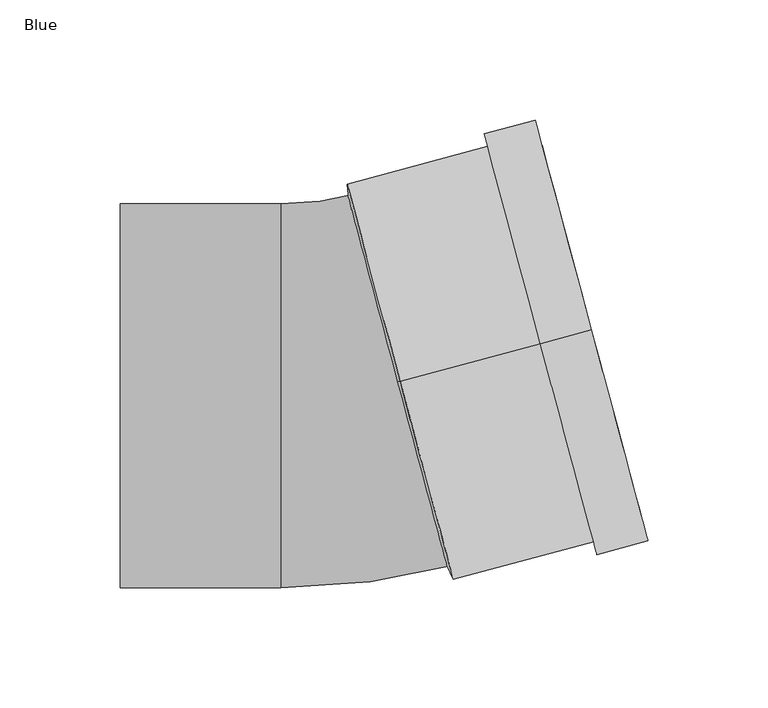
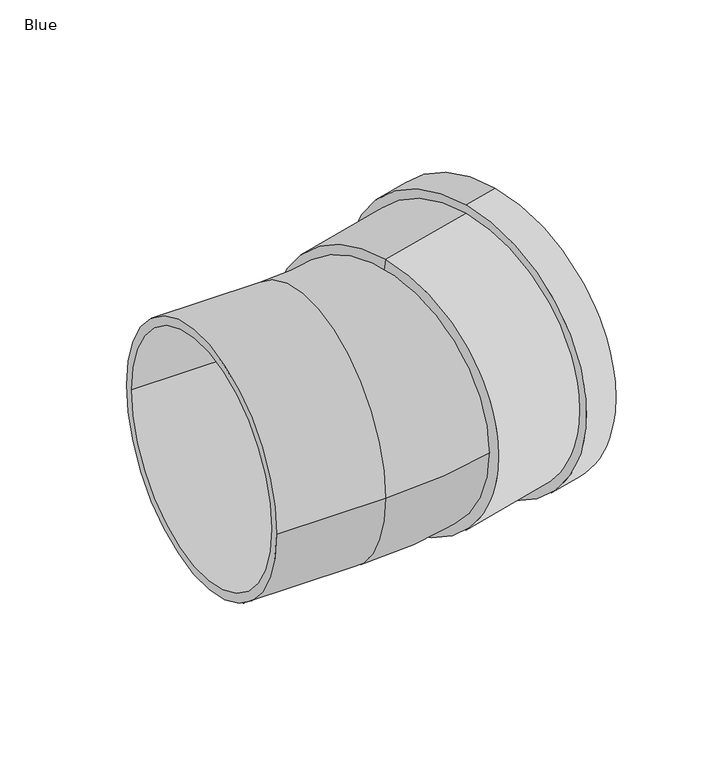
"""IFC4 building model written with IfcOpenShell, lengths in millimetres: pipe fitting geometry, AWADUKT PP SN10 Bend : Blue."""

import ifcopenshell
import ifcopenshell.guid

model = None  # the IFC model being written
_history = None  # IfcOwnerHistory: only IFC2X3 demands one
_inside = {}  # id of a spatial element -> (the spatial element, [elements in it])
_under = {}  # id of a project, library or spatial element -> (it, [spatial elements below it])
_declared = {}  # id of a project -> (the project, [libraries it declares])
_typed = {}  # id of a type object -> (the type object, [elements of that type])
_made_of = {}  # id of a material, layer set ... -> (it, [elements and type objects made of it])


def new_model(schema):
    """Start an empty IFC model of exactly this schema.

    Asked for "IFC4X3", IfcOpenShell would pick the latest addendum, in which some entities
    have other attributes; the version numbers below select the first issue.
    IFC2X3 requires an IfcOwnerHistory on every rooted entity: one is made here for all.
    """
    global model, _history
    if schema == "IFC4X3":
        model = ifcopenshell.file(schema_version=(4, 3, 0, 0))
    else:
        model = ifcopenshell.file(schema=schema)
    _inside.clear()
    _under.clear()
    _declared.clear()
    _typed.clear()
    _made_of.clear()
    _history = None
    if model.schema == "IFC2X3":
        org = make("IfcOrganization", Name="unknown")
        user = make(
            "IfcPersonAndOrganization",
            ThePerson=make("IfcPerson", FamilyName="unknown"),
            TheOrganization=org,
        )
        app = make(
            "IfcApplication",
            ApplicationDeveloper=org,
            Version="unknown",
            ApplicationFullName="unknown",
            ApplicationIdentifier="unknown",
        )
        _history = make(
            "IfcOwnerHistory",
            OwningUser=user,
            OwningApplication=app,
            ChangeAction="ADDED",
            CreationDate=0,
        )
    return model


def make(cls, **values):
    """One entity of the class cls with the attributes given. An attribute that is None is left unset."""
    return model.create_entity(
        cls, **{name: value for name, value in values.items() if value is not None}
    )


def rooted(cls, **values):
    """An entity with a GlobalId (a new one), such as an element, a storey or a relation."""
    return make(cls, GlobalId=ifcopenshell.guid.new(), OwnerHistory=_history, **values)


def si_unit(unit_type, name, prefix=None):
    """IfcSIUnit, for example si_unit("LENGTHUNIT", "METRE", prefix="MILLI")."""
    return make("IfcSIUnit", UnitType=unit_type, Prefix=prefix, Name=name)


def assignment(units):
    """IfcUnitAssignment: the units of a project."""
    return None if units is None else make("IfcUnitAssignment", Units=units)


def point(xyz):
    """IfcCartesianPoint."""
    return None if xyz is None else make("IfcCartesianPoint", Coordinates=xyz)


def direction(xyz):
    """IfcDirection."""
    return None if xyz is None else make("IfcDirection", DirectionRatios=xyz)


def frame(location, z_axis=None, x_axis=None):
    """IfcAxis2Placement3D, a coordinate frame: its origin and axes. An axis left out is left unset."""
    return make(
        "IfcAxis2Placement3D",
        Location=point(location),
        Axis=direction(z_axis),
        RefDirection=direction(x_axis),
    )


def origin():
    """The frame at (0, 0, 0) with its axes left unset."""
    return frame((0.0, 0.0, 0.0))


def place(relative_to, where):
    """IfcLocalPlacement: puts the frame where relative to a parent placement (None: the world)."""
    return make(
        "IfcLocalPlacement", PlacementRelTo=relative_to, RelativePlacement=where
    )


def context(
    kind, dimensions, precision=None, world=None, true_north=None, identifier=None
):
    """IfcGeometricRepresentationContext, for example the 3D "Model" context."""
    return make(
        "IfcGeometricRepresentationContext",
        ContextIdentifier=identifier,
        ContextType=kind,
        CoordinateSpaceDimension=dimensions,
        Precision=precision,
        WorldCoordinateSystem=world,
        TrueNorth=true_north,
    )


def project(units=None, contexts=None):
    """IfcProject with its units and contexts."""
    return rooted(
        "IfcProject",
        Name="project",
        RepresentationContexts=contexts,
        UnitsInContext=assignment(units),
    )


def spatial(cls, under=None, at=None, **own):
    """A site, building, storey or space (cls), placed at a placement, below another one or the project."""
    s = rooted(cls, ObjectPlacement=at, **own)
    if under is not None:
        _under.setdefault(under.id(), (under, []))[1].append(s)
    return s


def polyline(points):
    """IfcPolyline through the points."""
    return make("IfcPolyline", Points=[point(p) for p in points])


def circle_curve(where, radius):
    """IfcCircle in the frame where."""
    return make("IfcCircle", Position=where, Radius=radius)


def ellipse_curve(where, semi_axis1, semi_axis2):
    """IfcEllipse in the frame where."""
    return make(
        "IfcEllipse", Position=where, SemiAxis1=semi_axis1, SemiAxis2=semi_axis2
    )


def trimmed(basis, trim1, trim2, sense, master):
    """IfcTrimmedCurve: the piece of a basis curve between two trims."""
    return make(
        "IfcTrimmedCurve",
        BasisCurve=basis,
        Trim1=trim1,
        Trim2=trim2,
        SenseAgreement=sense,
        MasterRepresentation=master,
    )


def shape(context_of_items, identifier, shape_type, items):
    """IfcShapeRepresentation: the items that make up one representation, for example the "Body"."""
    return make(
        "IfcShapeRepresentation",
        ContextOfItems=context_of_items,
        RepresentationIdentifier=identifier,
        RepresentationType=shape_type,
        Items=items,
    )


def source(mapping_origin, context_of_items, identifier, shape_type, items):
    """IfcRepresentationMap: a shape defined once, which mapped items show again and again."""
    return make(
        "IfcRepresentationMap",
        MappingOrigin=mapping_origin,
        MappedRepresentation=shape(context_of_items, identifier, shape_type, items),
    )


def transform(
    local_origin,
    x_axis=None,
    y_axis=None,
    z_axis=None,
    scale=None,
    scale2=None,
    scale3=None,
    uniform=True,
):
    """IfcCartesianTransformationOperator3D, or its non-uniform kind. x_axis, y_axis, z_axis: its Axis1, 2, 3."""
    if uniform:
        return make(
            "IfcCartesianTransformationOperator3D",
            Axis1=direction(x_axis),
            Axis2=direction(y_axis),
            LocalOrigin=point(local_origin),
            Scale=scale,
            Axis3=direction(z_axis),
        )
    return make(
        "IfcCartesianTransformationOperator3DnonUniform",
        Axis1=direction(x_axis),
        Axis2=direction(y_axis),
        LocalOrigin=point(local_origin),
        Scale=scale,
        Axis3=direction(z_axis),
        Scale2=scale2,
        Scale3=scale3,
    )


def mapped(mapping_source, mapping_target):
    """IfcMappedItem: shows the shape of a source again, moved by a transform."""
    return make(
        "IfcMappedItem", MappingSource=mapping_source, MappingTarget=mapping_target
    )


def made_of(thing, what):
    """Note that an element or type object is made of a material, layer set ...; save() writes the relation."""
    if what is not None:
        _made_of.setdefault(what.id(), (what, []))[1].append(thing)
    return thing


def element(
    cls,
    number,
    at=None,
    inside=None,
    cuts=None,
    type_object=None,
    material=None,
    context=None,
    identifier="Body",
    shape_type=None,
    held_by="IfcProductDefinitionShape",
    body=None,
    shapes=None,
    **own,
):
    """One element of the class cls, such as IfcWall. Its Tag is "e" and its number.

    at: its placement. inside: the storey or other place that contains it. cuts: it is an
    opening in that element (IfcRelVoidsElement). A single representation is given by context,
    identifier, shape_type and body (its items); several are given by shapes. held_by: the class
    of the entity that holds the representations. save() writes the other relations.
    """
    e = rooted(cls, Tag="e%d" % number, ObjectPlacement=at, **own)
    if body is not None:
        shapes = [shape(context, identifier, shape_type, body)]
    if shapes is not None:
        e.Representation = make(held_by, Representations=shapes)
    if inside is not None:
        _inside.setdefault(inside.id(), (inside, []))[1].append(e)
    if cuts is not None:
        rooted(
            "IfcRelVoidsElement", RelatingBuildingElement=cuts, RelatedOpeningElement=e
        )
    if type_object is not None:
        _typed.setdefault(type_object.id(), (type_object, []))[1].append(e)
    return made_of(e, material)


def aggregate(whole, parts):
    """IfcRelAggregates: a whole, such as a stair, and the parts it consists of."""
    return rooted("IfcRelAggregates", RelatingObject=whole, RelatedObjects=parts)


def save(model, path):
    """Write the relations noted so far, then the file.

    IfcRelAggregates (storeys below a building ...), IfcRelContainedInSpatialStructure (elements
    in a storey), IfcRelDefinesByType, IfcRelAssociatesMaterial and IfcRelDeclares: one each for
    every whole, place, type object, material and project.
    """
    for whole, parts in _under.values():
        aggregate(whole, parts)
    for where, things in _inside.values():
        rooted(
            "IfcRelContainedInSpatialStructure",
            RelatedElements=things,
            RelatingStructure=where,
        )
    for kind, things in _typed.values():
        rooted("IfcRelDefinesByType", RelatedObjects=things, RelatingType=kind)
    for what, things in _made_of.values():
        rooted("IfcRelAssociatesMaterial", RelatedObjects=things, RelatingMaterial=what)
    for by, libraries in _declared.values():
        rooted("IfcRelDeclares", RelatingContext=by, RelatedDefinitions=libraries)
    model.write(path)


def plane_surface(at):
    """IfcPlane: the flat surface through the origin of the frame at, square to its z axis."""
    return make("IfcPlane", Position=at)


def cylinder_surface(at, radius):
    """IfcCylindricalSurface: all points at the distance radius from the z axis of the frame at."""
    return make("IfcCylindricalSurface", Position=at, Radius=radius)


def revolved_surface(curve, axis_point, axis_direction):
    """IfcSurfaceOfRevolution: the curve turned about the line through axis_point along axis_direction."""
    return make(
        "IfcSurfaceOfRevolution",
        SweptCurve=make("IfcArbitraryOpenProfileDef", ProfileType="CURVE", Curve=curve),
        AxisPosition=make("IfcAxis1Placement", Location=point(axis_point), Axis=direction(axis_direction)),
    )


def advanced_brep(points, edges, surfaces, faces):
    """IfcAdvancedBrep: a solid bounded by faces that lie on surfaces and meet in shared edges.

    An edge is (start, end): straight between two places in points (the first is 0);
    or (start, end, curve); or (start, end, curve, False) where it runs against its curve.
    A face is (place in surfaces, loops), or (place, loops, False) where it looks against
    its surface's normal. A loop lists edges by number (the first is 1), with a minus sign
    where the edge is run from its end to its start. The first loop is the outer one.
    """
    corners = [point(p) for p in points]
    vertices = [make("IfcVertexPoint", VertexGeometry=c) for c in corners]
    made = []
    for start, end, *more in edges:
        made.append(
            make(
                "IfcEdgeCurve",
                EdgeStart=vertices[start],
                EdgeEnd=vertices[end],
                EdgeGeometry=more[0] if more else make("IfcPolyline", Points=[corners[start], corners[end]]),
                SameSense=more[1] if len(more) > 1 else True,
            )
        )
    hull = []
    for where, loops, *sense in faces:
        bounds = []
        for j, loop in enumerate(loops):
            ring = [make("IfcOrientedEdge", EdgeElement=made[abs(k) - 1], Orientation=k > 0) for k in loop]
            bounds.append(
                make(
                    "IfcFaceOuterBound" if j == 0 else "IfcFaceBound",
                    Bound=make("IfcEdgeLoop", EdgeList=ring),
                    Orientation=True,
                )
            )
        hull.append(make("IfcAdvancedFace", Bounds=bounds, FaceSurface=surfaces[where], SameSense=sense[0] if sense else True))
    return make("IfcAdvancedBrep", Outer=make("IfcClosedShell", CfsFaces=hull))


def blue_49925300(model_context):
    return source(origin(), model_context, "Body", "AdvancedBrep", [
        advanced_brep(
        [(81.1377694, 21.7407998, 85.5), (81.1377694, 21.7407998, -85.5), (22.6555492, 6.0705361, -85.5), (22.6555492, 6.0705361, 85.5), (102.3881376, 27.4348188, 91.0), (102.3881376, 27.4348188, -91.0), (81.1377694, 21.7407998, -91.0), (81.1377694, 21.7407998, 91.0), (97.0755455, 26.011314, 80.0), (97.0755455, 26.011314, -80.0), (102.3881376, 27.4348188, -80.0), (102.3881376, 27.4348188, 80.0), (86.4503615, 23.1643045, 85.5), (86.4503615, 23.1643045, -85.5), (97.0755455, 26.011314, -85.5), (97.0755455, 26.011314, 85.5), (27.1133432, 7.2649984, 80.0), (27.1133432, 7.2649984, -80.0), (86.4503615, 23.1643045, -80.0), (86.4503615, 23.1643045, 80.0), (26.1765899, 7.0139961, 74.5), (26.1765899, 7.0139961, -74.5), (20.7820426, 5.5685315, 74.5), (20.7820426, 5.5685315, -74.5)],
        [
            (0, 1, circle_curve(frame((81.1377694, 21.7407998, 0.0), z_axis=(-0.9659258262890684, -0.25881904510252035, 0.0), x_axis=(0.0, 0.0, -1.0)), 85.5)),
            (1, 2),
            (2, 3, circle_curve(frame((22.6555492, 6.0705361, 0.0), z_axis=(0.9659258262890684, 0.25881904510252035, 0.0), x_axis=(0.0, 0.0, -1.0)), 85.5)),
            (3, 0),
            (4, 5, circle_curve(frame((102.3881376, 27.4348188, 0.0), z_axis=(-0.9659258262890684, -0.25881904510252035, 0.0), x_axis=(0.0, 0.0, -1.0)), 91.0)),
            (5, 6),
            (6, 7, circle_curve(frame((81.1377694, 21.7407998, 0.0), z_axis=(0.9659258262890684, 0.25881904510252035, 0.0), x_axis=(0.0, 0.0, -1.0)), 91.0)),
            (7, 4),
            (8, 9, circle_curve(frame((97.0755455, 26.011314, 0.0), z_axis=(-0.9659258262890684, -0.25881904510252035, 0.0), x_axis=(0.0, 0.0, -1.0)), 80.0)),
            (9, 10),
            (10, 11, circle_curve(frame((102.3881376, 27.4348188, 0.0), z_axis=(0.9659258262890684, 0.25881904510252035, 0.0), x_axis=(0.0, 0.0, -1.0)), 80.0)),
            (11, 8),
            (12, 13, circle_curve(frame((86.4503615, 23.1643045, 0.0), z_axis=(-0.9659258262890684, -0.25881904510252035, 0.0), x_axis=(0.0, 0.0, -1.0)), 85.5)),
            (13, 14),
            (14, 15, circle_curve(frame((97.0755455, 26.011314, 0.0), z_axis=(0.9659258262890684, 0.25881904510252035, 0.0), x_axis=(0.0, 0.0, -1.0)), 85.5)),
            (15, 12),
            (16, 17, circle_curve(frame((27.1133432, 7.2649984, 0.0), z_axis=(-0.9659258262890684, -0.25881904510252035, 0.0), x_axis=(0.0, 0.0, -1.0)), 80.0)),
            (17, 18),
            (18, 19, circle_curve(frame((86.4503615, 23.1643045, 0.0), z_axis=(0.9659258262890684, 0.25881904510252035, 0.0), x_axis=(0.0, 0.0, -1.0)), 80.0)),
            (19, 16),
            (20, 21, circle_curve(frame((26.1765899, 7.0139961, 0.0), z_axis=(-0.9659258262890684, -0.25881904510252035, 0.0), x_axis=(0.0, 0.0, -1.0)), 74.5)),
            (21, 17),
            (16, 20),
            (22, 23, circle_curve(frame((20.7820426, 5.5685315, 0.0), z_axis=(-0.9659258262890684, -0.25881904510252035, 0.0), x_axis=(0.0, 0.0, -1.0)), 74.5)),
            (23, 21),
            (20, 22),
            (2, 23),
            (22, 3),
            (1, 0, circle_curve(frame((81.1377694, 21.7407998, 0.0), z_axis=(-0.9659258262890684, -0.25881904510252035, 0.0), x_axis=(0.0, 0.0, 1.0)), 85.5)),
            (3, 2, circle_curve(frame((22.6555492, 6.0705361, 0.0), z_axis=(0.9659258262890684, 0.25881904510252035, 0.0), x_axis=(0.0, 0.0, 1.0)), 85.5)),
            (6, 7, circle_curve(frame((81.1377694, 21.7407998, 0.0), z_axis=(-0.9659258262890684, -0.25881904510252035, 0.0), x_axis=(0.0, 0.0, 1.0)), 91.0)),
            (5, 4, circle_curve(frame((102.3881376, 27.4348188, 0.0), z_axis=(-0.9659258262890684, -0.25881904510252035, 0.0), x_axis=(0.0, 0.0, 1.0)), 91.0)),
            (10, 11, circle_curve(frame((102.3881376, 27.4348188, 0.0), z_axis=(-0.9659258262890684, -0.25881904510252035, 0.0), x_axis=(0.0, 0.0, 1.0)), 80.0)),
            (9, 8, circle_curve(frame((97.0755455, 26.011314, 0.0), z_axis=(-0.9659258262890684, -0.25881904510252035, 0.0), x_axis=(0.0, 0.0, 1.0)), 80.0)),
            (14, 15, circle_curve(frame((97.0755455, 26.011314, 0.0), z_axis=(-0.9659258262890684, -0.25881904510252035, 0.0), x_axis=(0.0, 0.0, 1.0)), 85.5)),
            (13, 12, circle_curve(frame((86.4503615, 23.1643045, 0.0), z_axis=(-0.9659258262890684, -0.25881904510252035, 0.0), x_axis=(0.0, 0.0, 1.0)), 85.5)),
            (18, 19, circle_curve(frame((86.4503615, 23.1643045, 0.0), z_axis=(-0.9659258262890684, -0.25881904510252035, 0.0), x_axis=(0.0, 0.0, 1.0)), 80.0)),
            (17, 16, circle_curve(frame((27.1133432, 7.2649984, 0.0), z_axis=(-0.9659258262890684, -0.25881904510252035, 0.0), x_axis=(0.0, 0.0, 1.0)), 80.0)),
            (21, 20, circle_curve(frame((26.1765899, 7.0139961, 0.0), z_axis=(-0.9659258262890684, -0.25881904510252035, 0.0), x_axis=(0.0, 0.0, 1.0)), 74.5)),
            (23, 22, circle_curve(frame((20.7820426, 5.5685315, 0.0), z_axis=(-0.9659258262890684, -0.25881904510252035, 0.0), x_axis=(0.0, 0.0, 1.0)), 74.5)),
        ],
        [
            cylinder_surface(frame((26.1765899, 7.0139961, 0.0), z_axis=(0.9659258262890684, 0.25881904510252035, 0.0), x_axis=(0.0, 0.0, -1.0)), 85.5),
            cylinder_surface(frame((26.1765899, 7.0139961, 0.0), z_axis=(0.9659258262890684, 0.25881904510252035, 0.0), x_axis=(0.0, 0.0, -1.0)), 91.0),
            revolved_surface(polyline([(102.38813760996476, 27.434818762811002, -80.0), (97.07554550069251, 26.011313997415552, -80.0)]), (26.1765899, 7.0139961, 0.0), (0.9659258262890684, 0.25881904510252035, 0.0)),
            revolved_surface(polyline([(97.07554550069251, 26.011313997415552, -85.5), (86.45036149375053, 23.16430452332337, -85.5)]), (26.1765899, 7.0139961, 0.0), (0.9659258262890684, 0.25881904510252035, 0.0)),
            revolved_surface(polyline([(86.45036149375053, 23.16430452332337, -80.0), (27.113343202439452, 7.264998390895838, -80.0)]), (26.1765899, 7.0139961, 0.0), (0.9659258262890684, 0.25881904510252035, 0.0)),
            revolved_surface(polyline([(27.1133432, 7.2649984, -80.0), (26.1765899, 7.0139961, -74.5)]), (26.1765899, 7.0139961, 0.0), (0.9659258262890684, 0.25881904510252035, 0.0)),
            revolved_surface(polyline([(26.1765899, 7.0139961, -74.5), (20.782042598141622, 5.5685315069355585, -74.5)]), (26.1765899, 7.0139961, 0.0), (0.9659258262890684, 0.25881904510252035, 0.0)),
            revolved_surface(polyline([(20.7820426, 5.5685315, -74.5), (22.6555492, 6.0705361, -85.5)]), (26.1765899, 7.0139961, 0.0), (0.9659258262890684, 0.25881904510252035, 0.0)),
            cylinder_surface(frame((26.1765899, 7.0139961, 0.0), z_axis=(0.9659258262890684, 0.25881904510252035, 0.0), x_axis=(0.0, 0.0, 1.0)), 85.5),
            plane_surface(frame((81.1377694, 21.7407998, 0.0), z_axis=(-0.9659258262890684, -0.25881904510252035, 0.0), x_axis=(0.0, 0.0, 1.0))),
            cylinder_surface(frame((26.1765899, 7.0139961, 0.0), z_axis=(0.9659258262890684, 0.25881904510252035, 0.0), x_axis=(0.0, 0.0, 1.0)), 91.0),
            plane_surface(frame((102.3881376, 27.4348188, 0.0), z_axis=(0.9659258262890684, 0.25881904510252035, 0.0), x_axis=(0.0, 0.0, 1.0))),
            revolved_surface(polyline([(102.38813760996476, 27.434818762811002, 80.0), (97.07554550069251, 26.011313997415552, 80.0)]), (26.1765899, 7.0139961, 0.0), (0.9659258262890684, 0.25881904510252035, 0.0)),
            plane_surface(frame((97.0755455, 26.011314, 0.0), z_axis=(-0.9659258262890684, -0.25881904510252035, 0.0), x_axis=(0.0, 0.0, 1.0))),
            revolved_surface(polyline([(97.07554550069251, 26.011313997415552, 85.5), (86.45036149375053, 23.16430452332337, 85.5)]), (26.1765899, 7.0139961, 0.0), (0.9659258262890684, 0.25881904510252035, 0.0)),
            plane_surface(frame((86.4503615, 23.1643045, 0.0), z_axis=(0.9659258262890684, 0.25881904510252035, 0.0), x_axis=(0.0, 0.0, 1.0))),
            revolved_surface(polyline([(86.45036149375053, 23.16430452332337, 80.0), (27.113343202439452, 7.264998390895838, 80.0)]), (26.1765899, 7.0139961, 0.0), (0.9659258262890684, 0.25881904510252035, 0.0)),
            revolved_surface(polyline([(27.1133432, 7.2649984, 80.0), (26.1765899, 7.0139961, 74.5)]), (26.1765899, 7.0139961, 0.0), (0.9659258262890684, 0.25881904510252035, 0.0)),
            revolved_surface(polyline([(26.1765899, 7.0139961, 74.5), (20.782042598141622, 5.5685315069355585, 74.5)]), (26.1765899, 7.0139961, 0.0), (0.9659258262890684, 0.25881904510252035, 0.0)),
            revolved_surface(polyline([(20.7820426, 5.5685315, 74.5), (22.6555492, 6.0705361, 85.5)]), (26.1765899, 7.0139961, 0.0), (0.9659258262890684, 0.25881904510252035, 0.0)),
        ],
        [
            (0, [[1, 2, 3, 4]]),
            (1, [[5, 6, 7, 8]]),
            (2, [[9, 10, 11, 12]]),
            (3, [[13, 14, 15, 16]]),
            (4, [[17, 18, 19, 20]]),
            (5, [[21, 22, -17, 23]]),
            (6, [[24, 25, -21, 26]]),
            (7, [[-3, 27, -24, 28]]),
            (8, [[29, -4, 30, -2]]),
            (9, [[31, -7], [-29, -1]]),
            (10, [[32, -8, -31, -6]]),
            (11, [[-32, -5], [33, -11]]),
            (12, [[34, -12, -33, -10]]),
            (13, [[35, -15], [-34, -9]]),
            (14, [[36, -16, -35, -14]]),
            (15, [[-36, -13], [37, -19]]),
            (16, [[38, -20, -37, -18]]),
            (17, [[39, -23, -38, -22]]),
            (18, [[40, -26, -39, -25]]),
            (19, [[-30, -28, -40, -27]]),
        ],
    ),
        advanced_brep(
        [(-94.0, -80.0, 0.0), (-94.0, 80.0, 0.0), (-94.0, -74.5, 0.0), (-94.0, 74.5, 0.0), (46.8821135, -70.26007, 0.0), (5.4710663, 84.2880622, 0.0), (45.4586088, -64.9474779, 0.0), (6.894571, 78.9754702, 0.0), (-27.1, -74.5, 0.0), (-27.1, 74.5, 0.0), (-27.1, -80.0, 0.0), (-27.1, 80.0, 0.0)],
        [
            (0, 1, circle_curve(frame((-94.0, 0.0, 0.0), z_axis=(-1.0, 0.0, 0.0), x_axis=(0.0, 1.0, 0.0)), 80.0)),
            (1, 0, circle_curve(frame((-94.0, 0.0, 0.0), z_axis=(-1.0, 0.0, 0.0), x_axis=(0.0, 1.0, 0.0)), 80.0)),
            (2, 3, circle_curve(frame((-94.0, 0.0, 0.0), z_axis=(1.0, 0.0, 0.0), x_axis=(0.0, 1.0, 0.0)), 74.5)),
            (3, 2, circle_curve(frame((-94.0, 0.0, 0.0), z_axis=(1.0, 0.0, 0.0), x_axis=(0.0, 1.0, 0.0)), 74.5)),
            (4, 5, circle_curve(frame((26.1765899, 7.0139961, 0.0), z_axis=(0.9659258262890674, 0.25881904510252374, 0.0), x_axis=(-0.25881904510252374, 0.9659258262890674, 0.0)), 80.0)),
            (5, 4, circle_curve(frame((26.1765899, 7.0139961, 0.0), z_axis=(0.9659258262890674, 0.25881904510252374, 0.0), x_axis=(-0.25881904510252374, 0.9659258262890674, 0.0)), 80.0)),
            (6, 7, circle_curve(frame((26.1765899, 7.0139961, 0.0), z_axis=(-0.9659258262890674, -0.25881904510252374, 0.0), x_axis=(-0.25881904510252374, 0.9659258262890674, 0.0)), 74.5)),
            (7, 6, circle_curve(frame((26.1765899, 7.0139961, 0.0), z_axis=(-0.9659258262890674, -0.25881904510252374, 0.0), x_axis=(-0.25881904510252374, 0.9659258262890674, 0.0)), 74.5)),
            (2, 8),
            (8, 9, circle_curve(frame((-27.1, 0.0, 0.0), z_axis=(1.0, 0.0, 0.0), x_axis=(0.0, 1.0, 0.0)), 74.5)),
            (9, 3),
            (9, 8, circle_curve(frame((-27.1, 0.0, 0.0), z_axis=(1.0, 0.0, 0.0), x_axis=(0.0, 1.0, 0.0)), 74.5)),
            (0, 10),
            (10, 11, circle_curve(frame((-27.1, 0.0, 0.0), z_axis=(-1.0, 0.0, 0.0), x_axis=(0.0, 1.0, 0.0)), 80.0)),
            (11, 1),
            (11, 10, circle_curve(frame((-27.1, 0.0, 0.0), z_axis=(-1.0, 0.0, 0.0), x_axis=(0.0, 1.0, 0.0)), 80.0)),
            (7, 9, circle_curve(frame((-27.1, 205.8449365, 0.0), z_axis=(0.0, 0.0, -1.0), x_axis=(0.0, -1.0, 0.0)), 131.3449365)),
            (8, 6, circle_curve(frame((-27.1, 205.8449365, 0.0), z_axis=(0.0, 0.0, 1.0), x_axis=(0.0, -1.0, 0.0)), 280.3449365)),
            (5, 11, circle_curve(frame((-27.1, 205.8449365, 0.0), z_axis=(0.0, 0.0, -1.0), x_axis=(0.0, -1.0, 0.0)), 125.8449365)),
            (10, 4, circle_curve(frame((-27.1, 205.8449365, 0.0), z_axis=(0.0, 0.0, 1.0), x_axis=(0.0, -1.0, 0.0)), 285.8449365)),
        ],
        [
            plane_surface(frame((-94.0, 0.0, 0.0), z_axis=(-1.0, 0.0, 0.0), x_axis=(0.0, 0.0, 1.0))),
            plane_surface(frame((26.1765899, 7.0139961, 0.0), z_axis=(0.9659258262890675, 0.25881904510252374, 0.0), x_axis=(0.0, 0.0, 1.0))),
            revolved_surface(polyline([(-27.099999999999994, 74.5, 0.0), (-94.0, 74.5, 0.0)]), (-94.0, 0.0, 0.0), (1.0, 0.0, 0.0)),
            cylinder_surface(frame((-94.0, 0.0, 0.0), z_axis=(-1.0, 0.0, 0.0), x_axis=(0.0, 1.0, 0.0)), 80.0),
            revolved_surface(trimmed(ellipse_curve(frame((-27.1, 0.0, 0.0), z_axis=(1.0, 0.0, 0.0), x_axis=(0.0, 1.0, 0.0)), 74.5, 74.5), [point((-27.1, -74.5, 0.0))], [point((-27.1, 74.5, 0.0))], True, "CARTESIAN"), (-27.1, 205.8449365, 0.0), (0.0, 0.0, 1.0)),
            revolved_surface(trimmed(ellipse_curve(frame((-27.1, 0.0, 0.0), z_axis=(1.0, 0.0, 0.0), x_axis=(0.0, 1.0, 0.0)), 74.5, 74.5), [point((-27.1, 74.5, 0.0))], [point((-27.1, -74.5, 0.0))], True, "CARTESIAN"), (-27.1, 205.8449365, 0.0), (0.0, 0.0, 1.0)),
            revolved_surface(trimmed(ellipse_curve(frame((-27.1, 0.0, 0.0), z_axis=(-1.0, 0.0, 0.0), x_axis=(0.0, 1.0, 0.0)), 80.0, 80.0), [point((-27.1, -80.0, 0.0))], [point((-27.1, 80.0, 0.0))], True, "CARTESIAN"), (-27.1, 205.8449365, 0.0), (0.0, 0.0, 1.0)),
            revolved_surface(trimmed(ellipse_curve(frame((-27.1, 0.0, 0.0), z_axis=(-1.0, 0.0, 0.0), x_axis=(0.0, 1.0, 0.0)), 80.0, 80.0), [point((-27.1, 80.0, 0.0))], [point((-27.1, -80.0, 0.0))], True, "CARTESIAN"), (-27.1, 205.8449365, 0.0), (0.0, 0.0, 1.0)),
        ],
        [
            (0, [[1, 2], [3, 4]]),
            (1, [[5, 6], [7, 8]]),
            (2, [[-3, 9, 10, 11]]),
            (2, [[-4, -11, 12, -9]]),
            (3, [[-1, 13, 14, 15]]),
            (3, [[-2, -15, 16, -13]]),
            (4, [[17, -10, 18, -8]]),
            (5, [[-18, -12, -17, -7]]),
            (6, [[19, -14, 20, -6]]),
            (7, [[-20, -16, -19, -5]]),
        ],
    ),
    ])


if __name__ == "__main__":
    model = new_model("IFC4")
    model_context = context("Model", 3, world=origin())
    ifc_project = project(units=[si_unit("LENGTHUNIT", "METRE", prefix="MILLI")], contexts=[model_context])
    site = spatial("IfcSite", under=ifc_project)
    building = spatial("IfcBuilding", under=site)
    placement = place(None, origin())
    blue_shape = blue_49925300(model_context)
    element("IfcPipeFitting", 1, ObjectType="AWADUKT PP SN10 Bend : Blue", at=placement, inside=building, context=model_context, shape_type="MappedRepresentation", body=[
        mapped(blue_shape, transform((0.0, 0.0, 0.0), x_axis=(1.0, 0.0, 0.0), y_axis=(0.0, 1.0, 0.0), z_axis=(0.0, 0.0, 1.0))),
    ])
    save(model, "model.ifc")
